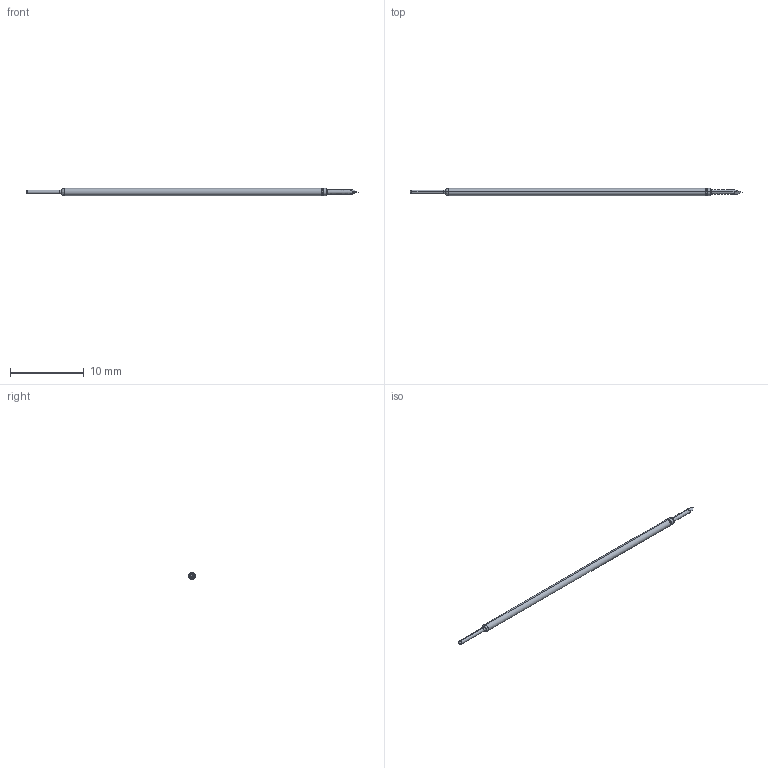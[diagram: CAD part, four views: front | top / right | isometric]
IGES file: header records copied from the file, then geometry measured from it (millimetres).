
Start section: SolidWorks IGES file using analytic representation for surfaces
Global section: file name: C:\Documents and Settings\mrumschlag\Desktop\changes\new\test\T24 RECD.IGS; native system: SolidWorks 2011; preprocessor: SolidWorks 2011; author: mrumschlag; date: 110630.142312; units: inch
Bounding box: 45.03 x 0.97 x 0.97 mm (x, y, z)
Surface area: 124.4 mm2 (no closed solid volume)
Topology: 0 solids, 0 shells, 26 faces, 166 edges, 164 vertices
Faces by surface type: revolution 14, bspline 12
